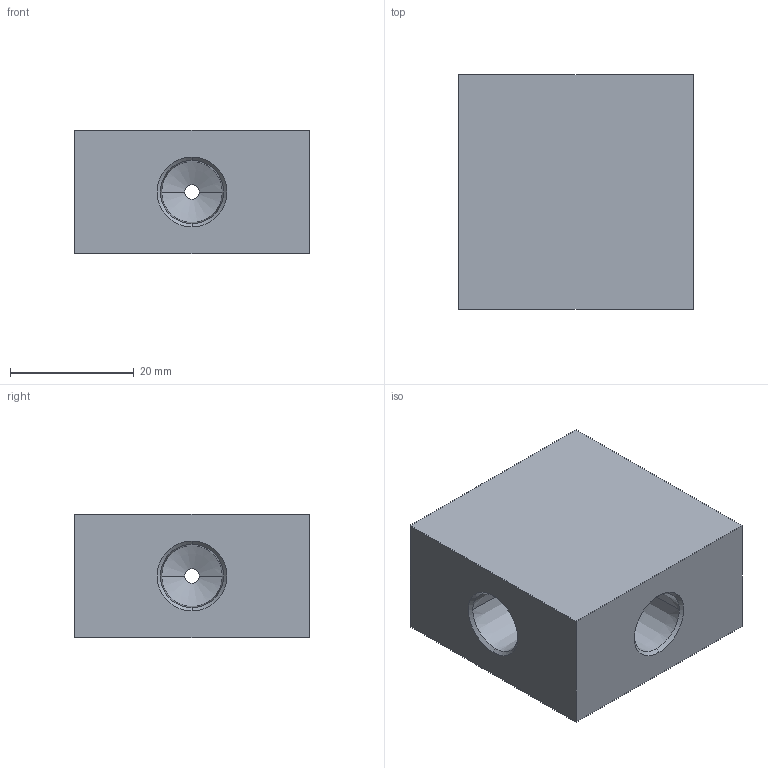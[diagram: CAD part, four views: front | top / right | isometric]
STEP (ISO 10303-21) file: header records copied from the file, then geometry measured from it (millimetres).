
FILE_DESCRIPTION (( 'STEP AP203' ), '1' );
FILE_NAME ('FTNCS02.STEP', '2026-06-26T00:53:44', ( 'USER' ), ( '' ), 'SwSTEP 2.0', 'SolidWorks 2023', '' );
FILE_SCHEMA (( 'CONFIG_CONTROL_DESIGN' ));
Length unit declared in the file: millimetre
Products named in the file (1): FTNCS02
Bounding box: 38 x 38 x 20 mm (x, y, z)
Volume: 25163.3 mm3; surface area: 7398.4 mm2
Topology: 1 solids, 1 shells, 46 faces, 108 edges, 62 vertices
Faces by surface type: cone 24, cylinder 16, plane 6
Entity records: 1389 total; most frequent: DIRECTION 242, CARTESIAN_POINT 241, ORIENTED_EDGE 216, EDGE_CURVE 108, AXIS2_PLACEMENT_3D 95, VERTEX_POINT 62, LINE 52, VECTOR 52
